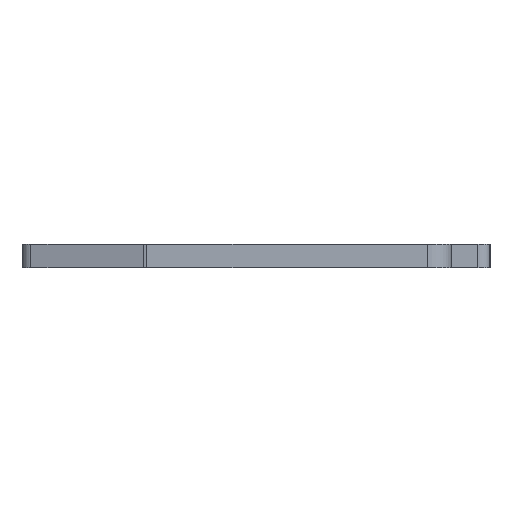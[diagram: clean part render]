
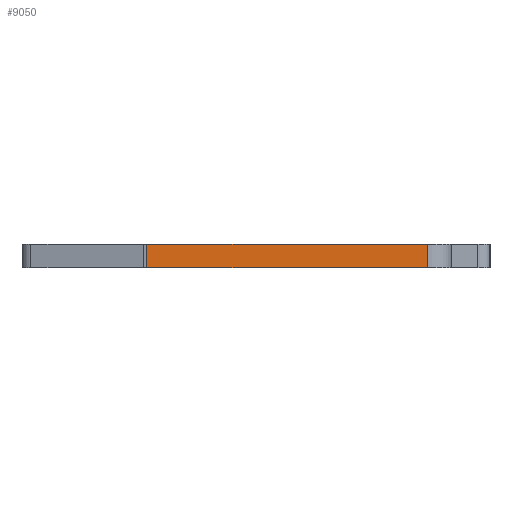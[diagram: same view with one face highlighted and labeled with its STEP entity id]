
A CAD part, left-side view. The second image highlights one B-rep face of the part: STEP entity #9050.
In plain terms, the highlighted planar face has unit normal (-1, 0, 0).
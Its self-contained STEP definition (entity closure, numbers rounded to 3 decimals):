
#210=CARTESIAN_POINT('',(-69.223,10.79,
0.9));
#220=VERTEX_POINT('',#210);
#250=CARTESIAN_POINT('',(-69.223,11.59,
0.9));
#260=DIRECTION('',(0.,-1.,0.));
#270=VECTOR('',#260,1.);
#280=LINE('',#250,#270);
#290=CARTESIAN_POINT('',(-69.223,34.195,
0.9));
#300=VERTEX_POINT('',#290);
#310=EDGE_CURVE('',#300,#220,#280,.T.);
#7020=CARTESIAN_POINT('',(-69.223,34.195,
-1.1));
#7030=VERTEX_POINT('',#7020);
#7060=CARTESIAN_POINT('',(-69.223,11.59,
-1.1));
#7070=DIRECTION('',(0.,1.,0.));
#7080=VECTOR('',#7070,1.);
#7090=LINE('',#7060,#7080);
#7100=CARTESIAN_POINT('',(-69.223,10.79,
-1.1));
#7110=VERTEX_POINT('',#7100);
#7120=EDGE_CURVE('',#7110,#7030,#7090,.T.);
#8840=CARTESIAN_POINT('',(-69.223,34.195,
1.));
#8850=DIRECTION('',(-1.,0.,0.));
#8860=DIRECTION('',(0.,1.,0.));
#8870=AXIS2_PLACEMENT_3D('',#8840,#8850,#8860);
#8880=PLANE('',#8870);
#8890=CARTESIAN_POINT('',(-69.223,10.79,
1.));
#8900=DIRECTION('',(0.,0.,1.));
#8910=VECTOR('',#8900,1.);
#8920=LINE('',#8890,#8910);
#8930=EDGE_CURVE('',#7110,#220,#8920,.T.);
#8940=ORIENTED_EDGE('',*,*,#8930,.T.);
#8950=ORIENTED_EDGE('',*,*,#7120,.F.);
#8960=CARTESIAN_POINT('',(-69.223,34.195,
1.));
#8970=DIRECTION('',(0.,0.,1.));
#8980=VECTOR('',#8970,1.);
#8990=LINE('',#8960,#8980);
#9000=EDGE_CURVE('',#7030,#300,#8990,.T.);
#9010=ORIENTED_EDGE('',*,*,#9000,.F.);
#9020=ORIENTED_EDGE('',*,*,#310,.F.);
#9030=EDGE_LOOP('',(#9020,#9010,#8950,#8940));
#9040=FACE_OUTER_BOUND('',#9030,.T.);
#9050=ADVANCED_FACE('',(#9040),#8880,.T.);
